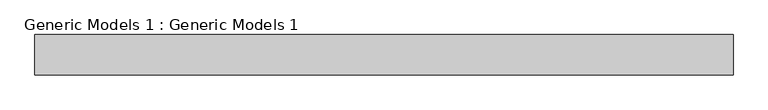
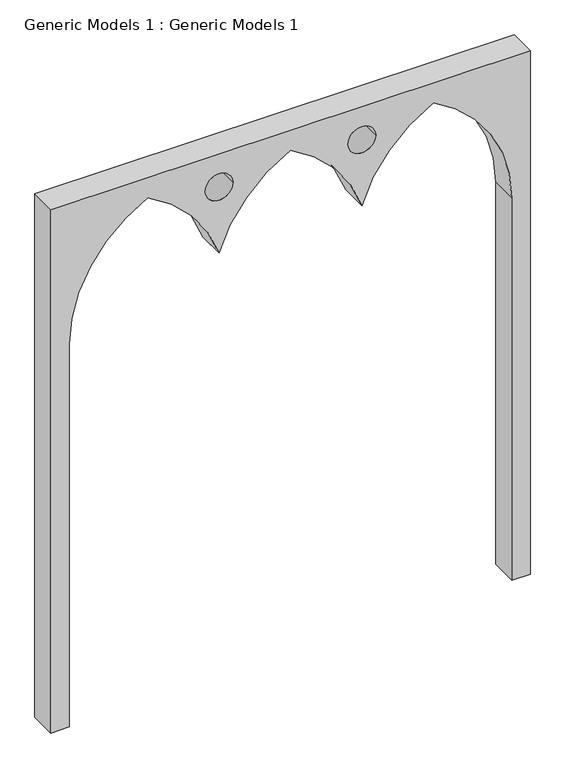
"""IFC4 building model written with IfcOpenShell, lengths in millimetres: proxy geometry, Generic Models 1 : Generic Models 1."""

from ifc_helpers import new_model, si_unit, point, frame, frame_2d, origin, place, context, project, spatial, polyline, circle_curve, trimmed, segment, composite_curve, outline, extrude, source, transform, mapped, element, save


def generic_models_1_generic_models_1_2ffa1991(model_context):
    return source(origin(), model_context, "Body", "SweptSolid", [
        extrude(outline(composite_curve([segment(polyline([(6400.0, 6200.000082), (6400.0, 1000.000082), (400.0, 1000.000082), (400.0, 1200.000082), (4787.5644347, 1200.000082)]), True, "CONTINUOUS"), segment(trimmed(circle_curve(frame_2d((4787.5644347, 2750.000082)), 1550.0), [point((4787.5644347, 1200.000082))], [point((6170.4961033, 2050.000082))], True, "CARTESIAN"), True, "CONTINUOUS"), segment(trimmed(circle_curve(frame_2d((4787.5644347, 1350.000082)), 1550.0), [point((6170.4961033, 2050.000082))], [point((5263.8784068, 2825.000082))], True, "CARTESIAN"), True, "CONTINUOUS"), segment(trimmed(circle_curve(frame_2d((4787.5644347, 4300.000082)), 1550.0), [point((5263.8784068, 2825.000082))], [point((6170.4961033, 3600.000082))], True, "CARTESIAN"), True, "CONTINUOUS"), segment(trimmed(circle_curve(frame_2d((4787.5644347, 2900.000082)), 1550.0), [point((6170.4961033, 3600.000082))], [point((5263.8784068, 4375.000082))], True, "CARTESIAN"), True, "CONTINUOUS"), segment(trimmed(circle_curve(frame_2d((4787.5644347, 5850.000082)), 1550.0), [point((5263.8784068, 4375.000082))], [point((6170.4961033, 5150.000082))], True, "CARTESIAN"), True, "CONTINUOUS"), segment(trimmed(circle_curve(frame_2d((4787.5644347, 4450.000082)), 1550.0), [point((6170.4961033, 5150.000082))], [point((4787.5644347, 6000.000082))], True, "CARTESIAN"), True, "CONTINUOUS"), segment(polyline([(4787.5644347, 6000.000082), (400.0, 6000.000082), (400.0, 6200.000082), (6400.0, 6200.000082)]), True, "CONTINUOUS")], self_intersect=False), holes=[composite_curve([segment(trimmed(circle_curve(frame_2d((6020.4961033, 4375.000082)), 150.0), [point((6020.4961033, 4225.000082))], [point((6020.4961033, 4525.000082))], True, "CARTESIAN"), True, "CONTINUOUS"), segment(trimmed(circle_curve(frame_2d((6020.4961033, 4375.000082)), 150.0), [point((6020.4961033, 4525.000082))], [point((6020.4961033, 4225.000082))], True, "CARTESIAN"), True, "CONTINUOUS")], self_intersect=False), composite_curve([segment(trimmed(circle_curve(frame_2d((6020.4961033, 2825.000082)), 150.0), [point((6020.4961033, 2675.000082))], [point((6020.4961033, 2975.000082))], True, "CARTESIAN"), True, "CONTINUOUS"), segment(trimmed(circle_curve(frame_2d((6020.4961033, 2825.000082)), 150.0), [point((6020.4961033, 2975.000082))], [point((6020.4961033, 2675.000082))], True, "CARTESIAN"), True, "CONTINUOUS")], self_intersect=False)]), frame((0.0, -0.0135357, 0.0), z_axis=(0.0, 1.0, 0.0), x_axis=(0.0, 0.0, 1.0)), (0.0, 0.0, 1.0), 300.0135357),
    ])


if __name__ == "__main__":
    model = new_model("IFC4")
    model_context = context("Model", 3, world=origin())
    ifc_project = project(units=[si_unit("LENGTHUNIT", "METRE", prefix="MILLI")], contexts=[model_context])
    site = spatial("IfcSite", under=ifc_project)
    building = spatial("IfcBuilding", under=site)
    placement = place(None, origin())
    generic_models_1_generic_models_1_shape = generic_models_1_generic_models_1_2ffa1991(model_context)
    element("IfcBuildingElementProxy", 1, Name="Generic Models 1 : Generic Models 1", ObjectType="Generic Models 1 : Generic Models 1", at=placement, inside=building, context=model_context, shape_type="MappedRepresentation", body=[
        mapped(generic_models_1_generic_models_1_shape, transform((0.0, 0.0, 0.0), x_axis=(1.0, 0.0, 0.0), y_axis=(0.0, 1.0, 0.0), z_axis=(0.0, 0.0, 1.0))),
    ])
    save(model, "model.ifc")
